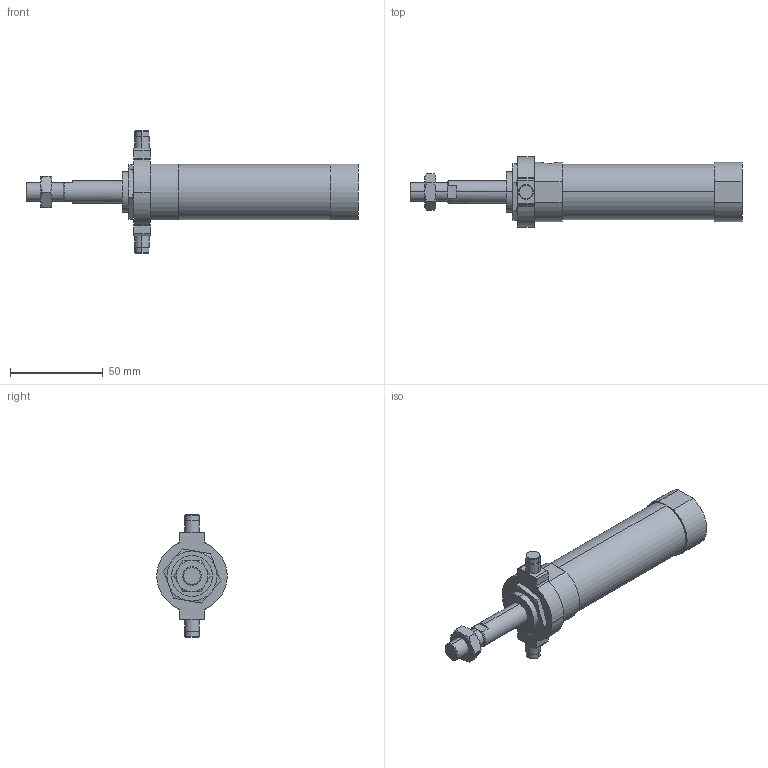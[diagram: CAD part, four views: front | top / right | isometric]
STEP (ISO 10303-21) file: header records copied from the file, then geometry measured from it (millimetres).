
FILE_DESCRIPTION (( 'STEP AP203' ), '1' );
FILE_NAME ('JGND0-25-25-T.STEP', '2016-08-04T02:09:46', ( '' ), ( '' ), 'SwSTEP 2.0', 'SolidWorks 2014', '' );
FILE_SCHEMA (( 'CONFIG_CONTROL_DESIGN' ));
Length unit declared in the file: millimetre
Products named in the file (5): JGND0-25-25-T; J#0-25-25(P); J#2-25-T
Assembly tree (4 placements, depth 2):
  JGND0-25-25-T
    J#0-25-25(P)
    (unnamed)
    J#2-25-T
    (unnamed)
Bounding box: 179 x 38 x 66 mm (x, y, z)
Volume: 101866.3 mm3; surface area: 21972 mm2
Topology: 4 solids, 4 shells, 124 faces, 281 edges, 169 vertices
Faces by surface type: plane 45, cylinder 41, torus 24, cone 14
Entity records: 4216 total; most frequent: CARTESIAN_POINT 937, DIRECTION 603, ORIENTED_EDGE 558, EDGE_CURVE 279, AXIS2_PLACEMENT_3D 247, VERTEX_POINT 169, EDGE_LOOP 136, ADVANCED_FACE 124
